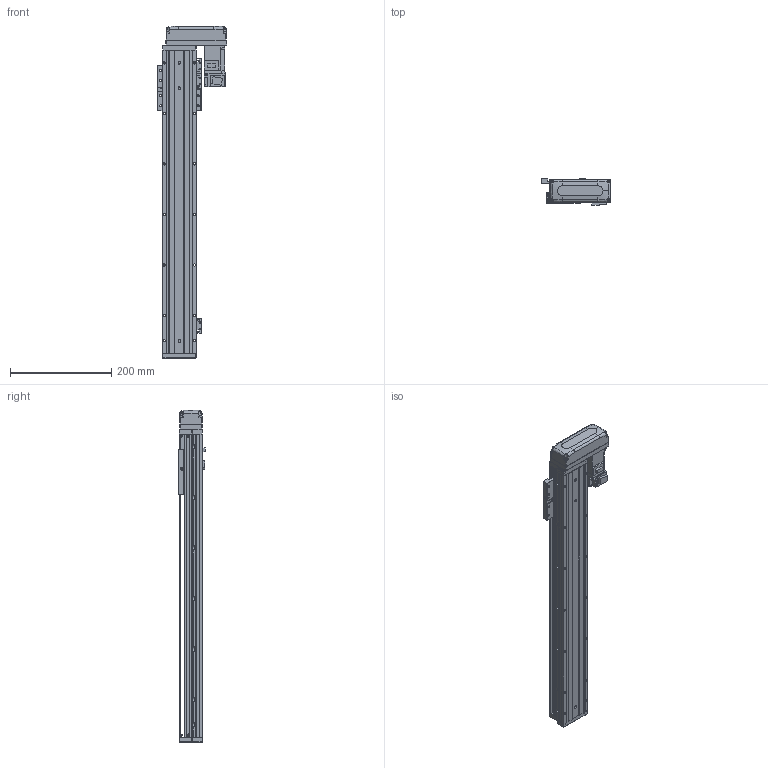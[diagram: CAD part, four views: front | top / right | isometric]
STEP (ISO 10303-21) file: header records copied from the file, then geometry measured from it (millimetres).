
FILE_DESCRIPTION (( 'STEP AP203' ), '1' );
FILE_NAME ('KTHAL60-450-BL-M10-C4L.step', '2022-03-19T08:38:10', ( '微软用户' ), ( '微软中国' ), 'SwSTEP 2.0', 'SolidWorks 2020', '' );
FILE_SCHEMA (( 'CONFIG_CONTROL_DESIGN' ));
Length unit declared in the file: millimetre
Products named in the file (18): GBT 70.3-M3℅6; CTHA60-016; EE_SX911P_R; HG-KR13（三菱）; KTHA60-001_600; CTHA60-017; CTHA60-015-2_CTHA60-015-2; KTHLA60-002; CTHA60-021; CTHA60-033; KTHA60-004; GBT 70.1-M4×16; GBT 70.1-M3×15; KTHA60-005; GBT77-2000M3-3; KTHAL60-450-BL-M10-C4L; GB¨uT 70.2-M3¡Á5_M3¡Á6; GBT 70.1-M3℅6
Assembly tree (51 placements, depth 2):
  KTHAL60-450-BL-M10-C4L
    KTHA60-001_600
    KTHLA60-002
    KTHA60-004
    KTHA60-005
    GB¨uT 70.2-M3¡Á5_M3¡Á6  x5
    GBT 70.3-M3℅6  x4
    EE_SX911P_R  x3
    CTHA60-017  x3
    CTHA60-021  x2
    GBT 70.1-M4×16  x10
    GBT77-2000M3-3  x6
    GBT 70.1-M3℅6  x6
    CTHA60-016
    HG-KR13（三菱）
    CTHA60-015-2_CTHA60-015-2
    CTHA60-033
    GBT 70.1-M3×15  x4
Bounding box: 137 x 53.3 x 657 mm (x, y, z)
Volume: 1452351.6 mm3; surface area: 358675.9 mm2
Topology: 54 solids, 54 shells, 2295 faces, 5443 edges, 3341 vertices
Faces by surface type: plane 1312, cylinder 559, cone 286, torus 98, bspline 26, sphere 14
Entity records: 39993 total; most frequent: CARTESIAN_POINT 7560, DIRECTION 6243, ORIENTED_EDGE 6030, EDGE_CURVE 3015, AXIS2_PLACEMENT_3D 2091, LINE 2061, VECTOR 2061, VERTEX_POINT 1890
